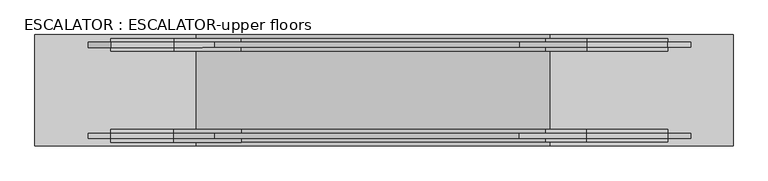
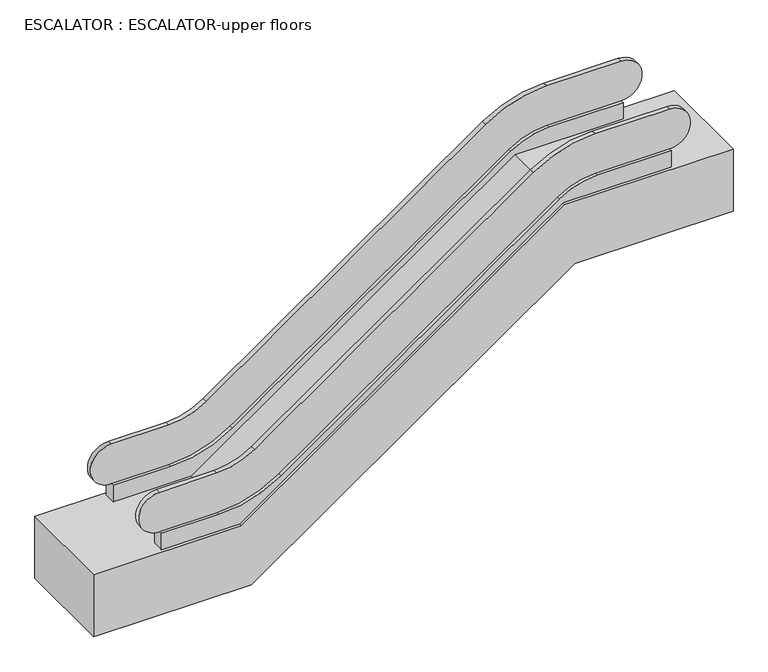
"""IFC4 building model written with IfcOpenShell, lengths in millimetres: proxy geometry, ESCALATOR : ESCALATOR-upper floors."""

from ifc_helpers import new_model, si_unit, point, frame, frame_2d, origin, place, context, project, spatial, polyline, circle_curve, trimmed, segment, composite_curve, outline, extrude, source, transform, mapped, element, save


def escalator_escalator_upper_floors_03ccc224(model_context):
    return source(origin(), model_context, "Body", "SweptSolid", [
        extrude(outline(composite_curve([segment(trimmed(circle_curve(frame_2d((2400.0, -9713.9266167)), 1637.0), [point((1059.093828, -8774.9166924))], [point((763.0, -9713.9266167))], True, "CARTESIAN"), True, "CONTINUOUS"), segment(polyline([(763.0, -9713.9266167), (763.0, -10588.6153082), (500.0, -10588.6153082), (500.0, -9398.970123), (3950.0, -4472.370123), (3950.0, -2823.0153082), (4213.0, -2823.0153082), (4213.0, -3955.8131211)]), True, "CONTINUOUS"), segment(trimmed(circle_curve(frame_2d((3213.0, -3955.8131211)), 1000.0), [point((4213.0, -3955.8131211))], [point((4032.1241124, -4529.4294463))], False, "CARTESIAN"), True, "CONTINUOUS"), segment(polyline([(4032.1241124, -4529.4294463), (1059.093828, -8774.9166924)]), True, "CONTINUOUS")], self_intersect=False)), frame((0.0, 550.0, 0.0), z_axis=(0.0, 1.0, 0.0), x_axis=(0.0, 0.0, 1.0)), (0.0, 0.0, 1.0), 175.0),
        extrude(outline(composite_curve([segment(polyline([(4850.0, -2823.0153082), (4850.0, -3955.8131211)]), True, "CONTINUOUS"), segment(trimmed(circle_curve(frame_2d((3213.0, -3955.8131211)), 1637.0), [point((4850.0, -3955.8131211))], [point((4553.906172, -4894.8230455))], False, "CARTESIAN"), True, "CONTINUOUS"), segment(polyline([(4553.906172, -4894.8230455), (1580.8758876, -9140.3102915)]), True, "CONTINUOUS"), segment(trimmed(circle_curve(frame_2d((2400.0, -9713.9266167)), 1000.0), [point((1580.8758876, -9140.3102915))], [point((1400.0, -9713.9266167))], True, "CARTESIAN"), True, "CONTINUOUS"), segment(polyline([(1400.0, -9713.9266167), (1400.0, -10588.6153082)]), True, "CONTINUOUS"), segment(trimmed(circle_curve(frame_2d((1081.5, -10588.6153082)), 318.5), [point((1400.0, -10588.6153082))], [point((763.0, -10588.6153082))], False, "CARTESIAN"), True, "CONTINUOUS"), segment(polyline([(763.0, -10588.6153082), (763.0, -9713.9266167)]), True, "CONTINUOUS"), segment(trimmed(circle_curve(frame_2d((2400.0, -9713.9266167)), 1637.0), [point((763.0, -9713.9266167))], [point((1059.093828, -8774.9166924))], False, "CARTESIAN"), True, "CONTINUOUS"), segment(polyline([(1059.093828, -8774.9166924), (4032.1241124, -4529.4294463)]), True, "CONTINUOUS"), segment(trimmed(circle_curve(frame_2d((3213.0, -3955.8131211)), 1000.0), [point((4032.1241124, -4529.4294463))], [point((4213.0, -3955.8131211))], True, "CARTESIAN"), True, "CONTINUOUS"), segment(polyline([(4213.0, -3955.8131211), (4213.0, -2823.0153082)]), True, "CONTINUOUS"), segment(trimmed(circle_curve(frame_2d((4531.5, -2823.0153082)), 318.5), [point((4213.0, -2823.0153082))], [point((4850.0, -2823.0153082))], False, "CARTESIAN"), True, "CONTINUOUS")], self_intersect=False)), frame((0.0, 600.0, 0.0), z_axis=(0.0, 1.0, 0.0), x_axis=(0.0, 0.0, 1.0)), (0.0, 0.0, 1.0), 75.0),
        extrude(outline(composite_curve([segment(polyline([(4850.0, -2823.0153082), (4850.0, -3955.8131211)]), True, "CONTINUOUS"), segment(trimmed(circle_curve(frame_2d((3213.0, -3955.8131211)), 1637.0), [point((4850.0, -3955.8131211))], [point((4553.906172, -4894.8230455))], False, "CARTESIAN"), True, "CONTINUOUS"), segment(polyline([(4553.906172, -4894.8230455), (1580.8758876, -9140.3102915)]), True, "CONTINUOUS"), segment(trimmed(circle_curve(frame_2d((2400.0, -9713.9266167)), 1000.0), [point((1580.8758876, -9140.3102915))], [point((1400.0, -9713.9266167))], True, "CARTESIAN"), True, "CONTINUOUS"), segment(polyline([(1400.0, -9713.9266167), (1400.0, -10588.6153082)]), True, "CONTINUOUS"), segment(trimmed(circle_curve(frame_2d((1081.5, -10588.6153082)), 318.5), [point((1400.0, -10588.6153082))], [point((763.0, -10588.6153082))], False, "CARTESIAN"), True, "CONTINUOUS"), segment(polyline([(763.0, -10588.6153082), (763.0, -9713.9266167)]), True, "CONTINUOUS"), segment(trimmed(circle_curve(frame_2d((2400.0, -9713.9266167)), 1637.0), [point((763.0, -9713.9266167))], [point((1059.093828, -8774.9166924))], False, "CARTESIAN"), True, "CONTINUOUS"), segment(polyline([(1059.093828, -8774.9166924), (4032.1241124, -4529.4294463)]), True, "CONTINUOUS"), segment(trimmed(circle_curve(frame_2d((3213.0, -3955.8131211)), 1000.0), [point((4032.1241124, -4529.4294463))], [point((4213.0, -3955.8131211))], True, "CARTESIAN"), True, "CONTINUOUS"), segment(polyline([(4213.0, -3955.8131211), (4213.0, -2823.0153082)]), True, "CONTINUOUS"), segment(trimmed(circle_curve(frame_2d((4531.5, -2823.0153082)), 318.5), [point((4213.0, -2823.0153082))], [point((4850.0, -2823.0153082))], False, "CARTESIAN"), True, "CONTINUOUS")], self_intersect=False)), frame((0.0, -675.0, 0.0), z_axis=(0.0, 1.0, 0.0), x_axis=(0.0, 0.0, 1.0)), (0.0, 0.0, 1.0), 75.0),
        extrude(outline(composite_curve([segment(trimmed(circle_curve(frame_2d((2400.0, -9713.9266167)), 1637.0), [point((1059.093828, -8774.9166924))], [point((763.0, -9713.9266167))], True, "CARTESIAN"), True, "CONTINUOUS"), segment(polyline([(763.0, -9713.9266167), (763.0, -10588.6153082), (500.0, -10588.6153082), (500.0, -9398.970123), (3950.0, -4472.370123), (3950.0, -2823.0153082), (4213.0, -2823.0153082), (4213.0, -3955.8131211)]), True, "CONTINUOUS"), segment(trimmed(circle_curve(frame_2d((3213.0, -3955.8131211)), 1000.0), [point((4213.0, -3955.8131211))], [point((4032.1241124, -4529.4294463))], False, "CARTESIAN"), True, "CONTINUOUS"), segment(polyline([(4032.1241124, -4529.4294463), (1059.093828, -8774.9166924)]), True, "CONTINUOUS")], self_intersect=False)), frame((0.0, -725.0, 0.0), z_axis=(0.0, 1.0, 0.0), x_axis=(0.0, 0.0, 1.0)), (0.0, 0.0, 1.0), 175.0),
        extrude(outline(polyline([(3950.0, -1912.5153082), (3950.0, -4472.370123), (500.0, -9398.970123), (500.0, -11648.970123), (-500.0, -11648.970123), (-500.0, -9249.2604934), (2950.0, -4322.6604934), (2950.0, -1912.5153082), (3950.0, -1912.5153082)])), frame((0.0, -775.0, 0.0), z_axis=(0.0, 1.0, 0.0), x_axis=(0.0, 0.0, 1.0)), (0.0, 0.0, 1.0), 1550.0),
    ])


if __name__ == "__main__":
    model = new_model("IFC4")
    model_context = context("Model", 3, world=origin())
    ifc_project = project(units=[si_unit("LENGTHUNIT", "METRE", prefix="MILLI")], contexts=[model_context])
    site = spatial("IfcSite", under=ifc_project)
    building = spatial("IfcBuilding", under=site)
    placement = place(None, origin())
    escalator_escalator_upper_floors_shape = escalator_escalator_upper_floors_03ccc224(model_context)
    element("IfcBuildingElementProxy", 1, Name="ESCALATOR : ESCALATOR-upper floors", ObjectType="ESCALATOR : ESCALATOR-upper floors", at=placement, inside=building, context=model_context, shape_type="MappedRepresentation", body=[
        mapped(escalator_escalator_upper_floors_shape, transform((0.0, 0.0, 0.0), x_axis=(1.0, 0.0, 0.0), y_axis=(0.0, 1.0, 0.0), z_axis=(0.0, 0.0, 1.0))),
    ])
    save(model, "model.ifc")
